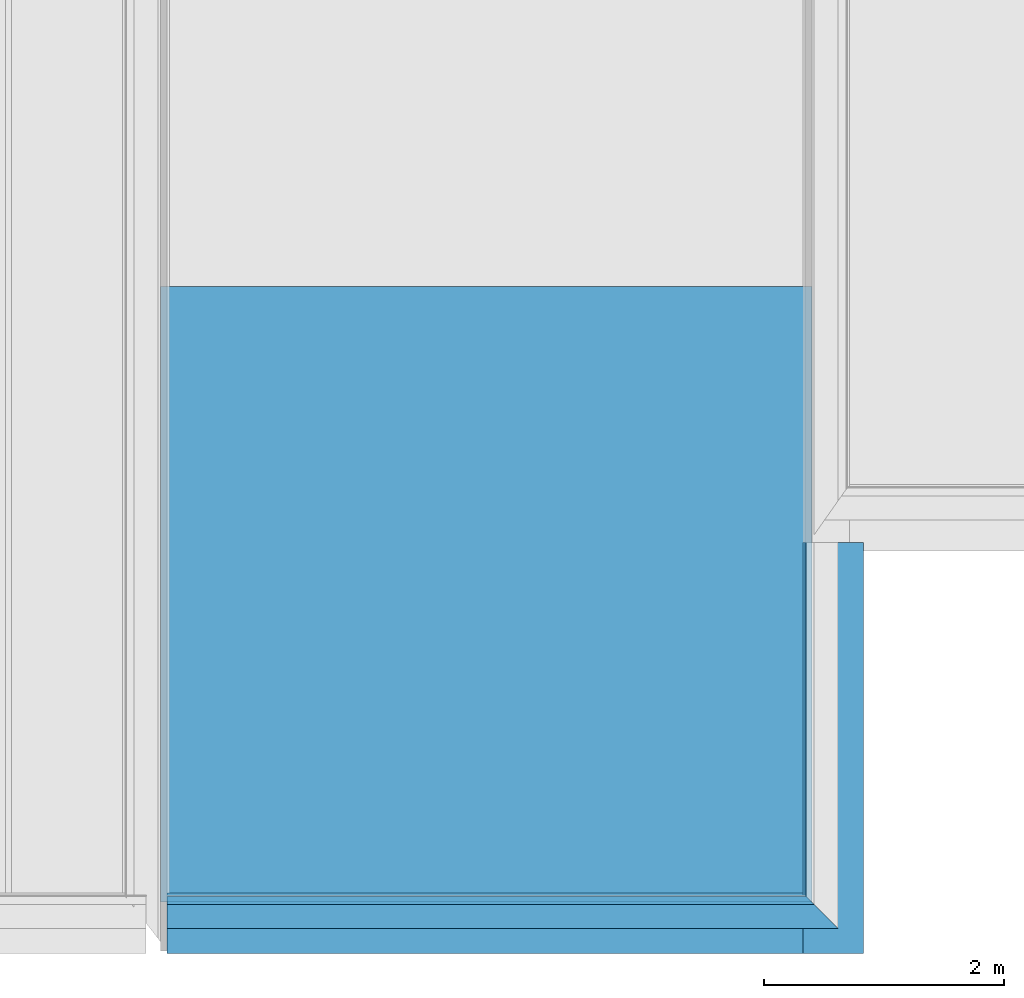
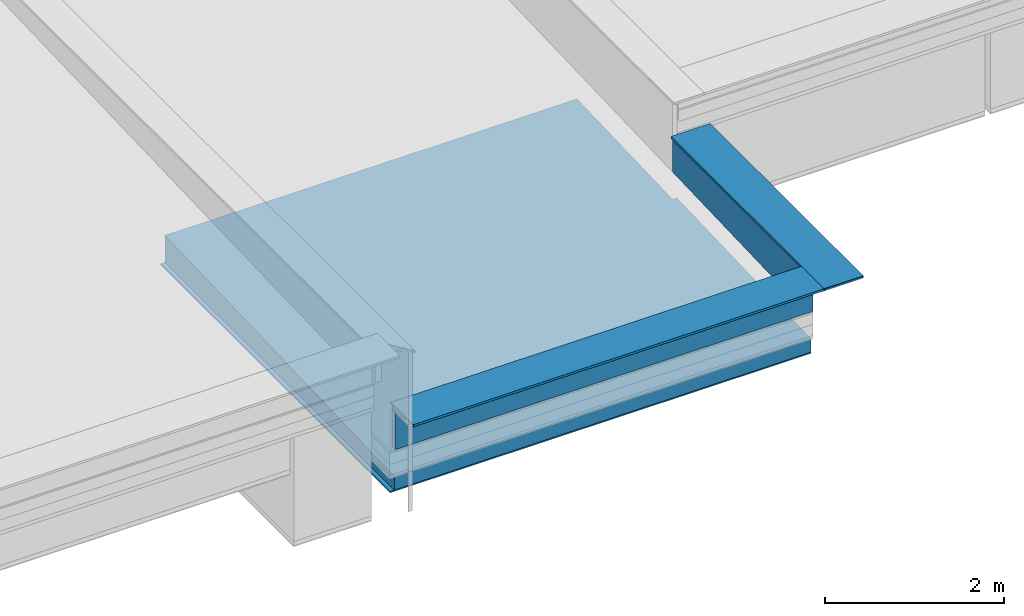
# One storey, part 3 of 13: 7 building element parts, 3 elements without a shape of their own.
"""IFC2X3 building model written with IfcOpenShell, lengths in metres."""

import ifcopenshell
import ifcopenshell.guid

model = None  # the IFC model being written
_history = None  # IfcOwnerHistory: only IFC2X3 demands one
_inside = {}  # id of a spatial element -> (the spatial element, [elements in it])
_under = {}  # id of a project, library or spatial element -> (it, [spatial elements below it])
_declared = {}  # id of a project -> (the project, [libraries it declares])
_typed = {}  # id of a type object -> (the type object, [elements of that type])
_made_of = {}  # id of a material, layer set ... -> (it, [elements and type objects made of it])


def new_model(schema):
    """Start an empty IFC model of exactly this schema.

    Asked for "IFC4X3", IfcOpenShell would pick the latest addendum, in which some entities
    have other attributes; the version numbers below select the first issue.
    IFC2X3 requires an IfcOwnerHistory on every rooted entity: one is made here for all.
    """
    global model, _history
    if schema == "IFC4X3":
        model = ifcopenshell.file(schema_version=(4, 3, 0, 0))
    else:
        model = ifcopenshell.file(schema=schema)
    _inside.clear()
    _under.clear()
    _declared.clear()
    _typed.clear()
    _made_of.clear()
    _history = None
    if model.schema == "IFC2X3":
        org = make("IfcOrganization", Name="unknown")
        user = make(
            "IfcPersonAndOrganization",
            ThePerson=make("IfcPerson", FamilyName="unknown"),
            TheOrganization=org,
        )
        app = make(
            "IfcApplication",
            ApplicationDeveloper=org,
            Version="unknown",
            ApplicationFullName="unknown",
            ApplicationIdentifier="unknown",
        )
        _history = make(
            "IfcOwnerHistory",
            OwningUser=user,
            OwningApplication=app,
            ChangeAction="ADDED",
            CreationDate=0,
        )
    return model


def make(cls, **values):
    """One entity of the class cls with the attributes given. An attribute that is None is left unset."""
    return model.create_entity(
        cls, **{name: value for name, value in values.items() if value is not None}
    )


def entity(cls, *values):
    """Any entity or typed value of the class cls, its attributes in the order of the schema. None: left unset."""
    e = model.create_entity(cls)
    for i, value in enumerate(values):
        if value is not None:
            e[i] = value
    return e


def rooted(cls, **values):
    """An entity with a GlobalId (a new one), such as an element, a storey or a relation."""
    return make(cls, GlobalId=ifcopenshell.guid.new(), OwnerHistory=_history, **values)


def si_unit(unit_type, name, prefix=None):
    """IfcSIUnit, for example si_unit("LENGTHUNIT", "METRE", prefix="MILLI")."""
    return make("IfcSIUnit", UnitType=unit_type, Prefix=prefix, Name=name)


def converted_unit(unit_type, name, factor, base, dimensions=None, offset=None):
    """IfcConversionBasedUnit, such as the inch: factor (a typed value) times the base unit."""
    return make(
        "IfcConversionBasedUnit"
        if offset is None
        else "IfcConversionBasedUnitWithOffset",
        ConversionOffset=offset,
        Dimensions=None
        if dimensions is None
        else entity("IfcDimensionalExponents", *dimensions),
        UnitType=unit_type,
        Name=name,
        ConversionFactor=make(
            "IfcMeasureWithUnit", ValueComponent=factor, UnitComponent=base
        ),
    )


def derived_unit(unit_type, elements):
    """IfcDerivedUnit: a product of units, each with its exponent."""
    return make(
        "IfcDerivedUnit",
        Elements=[
            make("IfcDerivedUnitElement", Unit=unit, Exponent=power)
            for unit, power in elements
        ],
        UnitType=unit_type,
    )


def money_unit(currency):
    """IfcMonetaryUnit."""
    return make("IfcMonetaryUnit", Currency=currency)


def assignment(units):
    """IfcUnitAssignment: the units of a project."""
    return None if units is None else make("IfcUnitAssignment", Units=units)


def point(xyz):
    """IfcCartesianPoint."""
    return None if xyz is None else make("IfcCartesianPoint", Coordinates=xyz)


def direction(xyz):
    """IfcDirection."""
    return None if xyz is None else make("IfcDirection", DirectionRatios=xyz)


def frame(location, z_axis=None, x_axis=None):
    """IfcAxis2Placement3D, a coordinate frame: its origin and axes. An axis left out is left unset."""
    return make(
        "IfcAxis2Placement3D",
        Location=point(location),
        Axis=direction(z_axis),
        RefDirection=direction(x_axis),
    )


def origin_with_axes():
    """The frame at (0, 0, 0) with the z axis (0, 0, 1) and the x axis (1, 0, 0) written out."""
    return frame((0.0, 0.0, 0.0), z_axis=(0.0, 0.0, 1.0), x_axis=(1.0, 0.0, 0.0))


def place(relative_to, where):
    """IfcLocalPlacement: puts the frame where relative to a parent placement (None: the world)."""
    return make(
        "IfcLocalPlacement", PlacementRelTo=relative_to, RelativePlacement=where
    )


def context(
    kind, dimensions, precision=None, world=None, true_north=None, identifier=None
):
    """IfcGeometricRepresentationContext, for example the 3D "Model" context."""
    return make(
        "IfcGeometricRepresentationContext",
        ContextIdentifier=identifier,
        ContextType=kind,
        CoordinateSpaceDimension=dimensions,
        Precision=precision,
        WorldCoordinateSystem=world,
        TrueNorth=true_north,
    )


def subcontext(parent, identifier, kind, view, scale=None):
    """IfcGeometricRepresentationSubContext, for example "Body" below "Model"."""
    return make(
        "IfcGeometricRepresentationSubContext",
        ContextIdentifier=identifier,
        ContextType=kind,
        ParentContext=parent,
        TargetScale=scale,
        TargetView=view,
    )


def project(units=None, contexts=None):
    """IfcProject with its units and contexts."""
    return rooted(
        "IfcProject",
        Name="project",
        RepresentationContexts=contexts,
        UnitsInContext=assignment(units),
    )


def spatial(cls, under=None, at=None, **own):
    """A site, building, storey or space (cls), placed at a placement, below another one or the project."""
    s = rooted(cls, ObjectPlacement=at, **own)
    if under is not None:
        _under.setdefault(under.id(), (under, []))[1].append(s)
    return s


def polyline(points):
    """IfcPolyline through the points."""
    return make("IfcPolyline", Points=[point(p) for p in points])


def outline(outer, holes=None, kind="AREA"):
    """IfcArbitraryClosedProfileDef: a profile drawn as a closed curve; with holes, ...WithVoids."""
    if holes is None:
        return make("IfcArbitraryClosedProfileDef", ProfileType=kind, OuterCurve=outer)
    return make(
        "IfcArbitraryProfileDefWithVoids",
        ProfileType=kind,
        OuterCurve=outer,
        InnerCurves=holes,
    )


def extrude(swept, where, along, depth):
    """IfcExtrudedAreaSolid: the profile swept, set in the frame where, extruded along a direction by depth."""
    return make(
        "IfcExtrudedAreaSolid",
        SweptArea=swept,
        Position=where,
        ExtrudedDirection=direction(along),
        Depth=depth,
    )


def boolean(op, a, b):
    """IfcBooleanResult of two solids."""
    return make("IfcBooleanResult", Operator=op, FirstOperand=a, SecondOperand=b)


def faces_of(points, faces, orient=None, outer=None):
    """IfcFace entities. A face is a list of loops; a loop is a list of indices into points, from 0.

    orient and outer hold one flag for each loop. By default every Orientation is true, the
    first loop of a face is its IfcFaceOuterBound and the others are IfcFaceBound.
    """
    made = []
    for i, loops in enumerate(faces):
        bounds = []
        for j, loop in enumerate(loops):
            is_outer = j == 0 if outer is None else outer[i][j]
            bounds.append(
                make(
                    "IfcFaceOuterBound" if is_outer else "IfcFaceBound",
                    Bound=make("IfcPolyLoop", Polygon=[points[k] for k in loop]),
                    Orientation=True if orient is None else orient[i][j],
                )
            )
        made.append(make("IfcFace", Bounds=bounds))
    return made


def faceted_brep(points, faces, orient=None, outer=None, voids=None):
    """IfcFacetedBrep: a solid bounded by flat faces; with voids (closed shells), ...WithVoids."""
    shared = [point(p) for p in points]
    hull = make("IfcClosedShell", CfsFaces=faces_of(shared, faces, orient, outer))
    if voids is None:
        return make("IfcFacetedBrep", Outer=hull)
    return make(
        "IfcFacetedBrepWithVoids",
        Outer=hull,
        Voids=[
            make(cls, CfsFaces=faces_of(shared, fs, o, b)) for cls, fs, o, b in voids
        ],
    )


def shape(context_of_items, identifier, shape_type, items):
    """IfcShapeRepresentation: the items that make up one representation, for example the "Body"."""
    return make(
        "IfcShapeRepresentation",
        ContextOfItems=context_of_items,
        RepresentationIdentifier=identifier,
        RepresentationType=shape_type,
        Items=items,
    )


def material(Name=None, Category=None):
    """IfcMaterial."""
    return make("IfcMaterial", Name=Name, Category=Category)


def made_of(thing, what):
    """Note that an element or type object is made of a material, layer set ...; save() writes the relation."""
    if what is not None:
        _made_of.setdefault(what.id(), (what, []))[1].append(thing)
    return thing


def type_object(cls, material=None, **own):
    """A type object (cls), such as IfcWallType, which elements share."""
    return made_of(rooted(cls, **own), material)


def element(
    cls,
    number,
    at=None,
    inside=None,
    cuts=None,
    type_object=None,
    material=None,
    context=None,
    identifier="Body",
    shape_type=None,
    held_by="IfcProductDefinitionShape",
    body=None,
    shapes=None,
    **own,
):
    """One element of the class cls, such as IfcWall. Its Tag is "e" and its number.

    at: its placement. inside: the storey or other place that contains it. cuts: it is an
    opening in that element (IfcRelVoidsElement). A single representation is given by context,
    identifier, shape_type and body (its items); several are given by shapes. held_by: the class
    of the entity that holds the representations. save() writes the other relations.
    """
    e = rooted(cls, Tag="e%d" % number, ObjectPlacement=at, **own)
    if body is not None:
        shapes = [shape(context, identifier, shape_type, body)]
    if shapes is not None:
        e.Representation = make(held_by, Representations=shapes)
    if inside is not None:
        _inside.setdefault(inside.id(), (inside, []))[1].append(e)
    if cuts is not None:
        rooted(
            "IfcRelVoidsElement", RelatingBuildingElement=cuts, RelatedOpeningElement=e
        )
    if type_object is not None:
        _typed.setdefault(type_object.id(), (type_object, []))[1].append(e)
    return made_of(e, material)


def aggregate(whole, parts):
    """IfcRelAggregates: a whole, such as a stair, and the parts it consists of."""
    return rooted("IfcRelAggregates", RelatingObject=whole, RelatedObjects=parts)


def save(model, path):
    """Write the relations noted so far, then the file.

    IfcRelAggregates (storeys below a building ...), IfcRelContainedInSpatialStructure (elements
    in a storey), IfcRelDefinesByType, IfcRelAssociatesMaterial and IfcRelDeclares: one each for
    every whole, place, type object, material and project.
    """
    for whole, parts in _under.values():
        aggregate(whole, parts)
    for where, things in _inside.values():
        rooted(
            "IfcRelContainedInSpatialStructure",
            RelatedElements=things,
            RelatingStructure=where,
        )
    for kind, things in _typed.values():
        rooted("IfcRelDefinesByType", RelatedObjects=things, RelatingType=kind)
    for what, things in _made_of.values():
        rooted("IfcRelAssociatesMaterial", RelatedObjects=things, RelatingMaterial=what)
    for by, libraries in _declared.values():
        rooted("IfcRelDeclares", RelatingContext=by, RelatedDefinitions=libraries)
    model.write(path)


model = new_model("IFC2X3")

# Units and contexts
model_context = context("Model", 3, precision=1e-05, world=origin_with_axes(), true_north=direction((0.0, 1.0)))
body_context = subcontext(model_context, "Body", "Model", "MODEL_VIEW")
ifc_project = project(units=[si_unit("LENGTHUNIT", "METRE"), si_unit("AREAUNIT", "SQUARE_METRE"), si_unit("VOLUMEUNIT", "CUBIC_METRE"), converted_unit("PLANEANGLEUNIT", "DEGREE", entity("IfcPlaneAngleMeasure", 0.0174532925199), si_unit("PLANEANGLEUNIT", "RADIAN"), dimensions=[0, 0, 0, 0, 0, 0, 0]), money_unit("CHF"), converted_unit("TIMEUNIT", "Year", entity("IfcTimeMeasure", 31556926.0), si_unit("TIMEUNIT", "SECOND"), dimensions=[0, 0, 1, 0, 0, 0, 0]), si_unit("MASSUNIT", "GRAM", prefix="KILO"), si_unit("THERMODYNAMICTEMPERATUREUNIT", "DEGREE_CELSIUS"), si_unit("LUMINOUSINTENSITYUNIT", "LUMEN"), si_unit("ENERGYUNIT", "JOULE", prefix="MEGA"), derived_unit("THERMALCONDUCTANCEUNIT", [(si_unit("POWERUNIT", "WATT"), 1), (si_unit("LENGTHUNIT", "METRE"), -1), (si_unit("THERMODYNAMICTEMPERATUREUNIT", "KELVIN"), -1)]), derived_unit("SPECIFICHEATCAPACITYUNIT", [(si_unit("ENERGYUNIT", "JOULE"), 1), (si_unit("MASSUNIT", "GRAM", prefix="KILO"), -1), (si_unit("THERMODYNAMICTEMPERATUREUNIT", "KELVIN"), -1)]), derived_unit("MASSDENSITYUNIT", [(si_unit("MASSUNIT", "GRAM", prefix="KILO"), 1), (si_unit("VOLUMEUNIT", "CUBIC_METRE"), -1)])], contexts=[model_context])

# Site, building, storey
site_placement = place(None, origin_with_axes())
site = spatial("IfcSite", under=ifc_project, at=site_placement, Name="Site", CompositionType="ELEMENT")
building_placement = place(site_placement, origin_with_axes())
building = spatial("IfcBuilding", under=site, at=building_placement, Name="Bâtiment", CompositionType="ELEMENT")
storey_placement = place(building_placement, frame((0.0, 0.0, 3.0), z_axis=(0.0, 0.0, 1.0), x_axis=(1.0, 0.0, 0.0)))
storey = spatial("IfcBuildingStorey", under=building, at=storey_placement, Name="Toitures", CompositionType="ELEMENT", Elevation=3.0)

# Slab, building element parts
slab_type = type_object("IfcSlabType", Name="Plafond plaque de platre 1018", PredefinedType="FLOOR")
slab_placement = place(storey_placement, frame((18.8094697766, 8.30012566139, 0.818), z_axis=(0.0, 0.0, 1.0), x_axis=(1.0, 0.0, 0.0)))
slab = element("IfcSlab", 1, at=slab_placement, inside=storey, type_object=slab_type, Name="DALLE-008", PredefinedType="FLOOR")
ifc_material_1 = material(Name="Plaque fibre-gypse")
building_element_part_1_placement = place(slab_placement, origin_with_axes())
building_element_part_1 = element("IfcBuildingElementPart", 2, at=building_element_part_1_placement, material=ifc_material_1, Name="Plaque fibre-gypse", context=body_context, shape_type="CSG", body=[
    boolean("DIFFERENCE", extrude(outline(polyline([(0.0, 0.0), (0.0, -5.11996015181), (5.42, -5.11996015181), (5.42, 0.0), (0.0, 0.0)])), frame((0.0, 0.0, -1.018), z_axis=(0.0, 0.0, 1.0), x_axis=(1.0, 0.0, 0.0)), (0.0, 0.0, 1.0), 0.018), faceted_brep([(5.42, -2.13, -0.708545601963), (5.42, -2.13, -1.0), (5.42, 0.0, -1.0), (5.42, 0.0, 0.0), (5.42, -5.11996015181, 0.0), (5.41999999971, -5.1199601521, -0.813194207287), (5.36500000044, -2.13, -0.708545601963), (5.365, -2.13, -1.0), (5.365, 0.0, -1.0), (0.0550000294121, 0.0, -0.633995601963), (0.0550000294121, 0.0, -1.0), (0.0, 0.0, -1.0), (0.0, 0.0, 0.0), (5.365, 0.0, -0.633995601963), (0.0, -5.11996015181, 0.0), (0.0550000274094, -5.11996015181, -0.813194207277), (0.0, -5.11996015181, -1.0), (0.0550000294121, -5.11996015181, -1.0)], [[[0, 1, 2, 3, 4, 5]], [[1, 0, 6, 7]], [[7, 8, 2, 1]], [[9, 10, 11, 12, 3, 2, 8, 13]], [[4, 3, 12, 14]], [[15, 5, 4, 14, 16, 17]], [[0, 5, 15, 9, 13, 6]], [[13, 8, 7, 6]], [[10, 9, 15, 17]], [[10, 17, 16, 11]], [[14, 12, 11, 16]]])),
])
ifc_material_2 = material(Name="Vide faux plafond")
building_element_part_2_placement = place(slab_placement, origin_with_axes())
building_element_part_2 = element("IfcBuildingElementPart", 3, at=building_element_part_2_placement, material=ifc_material_2, Name="Vide faux plafond", context=body_context, shape_type="CSG", body=[
    boolean("DIFFERENCE", extrude(outline(polyline([(0.0, 0.0), (0.0, -5.11996015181), (5.42, -5.11996015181), (5.42, 0.0), (0.0, 0.0)])), frame((0.0, 0.0, -1.0), z_axis=(0.0, 0.0, 1.0), x_axis=(1.0, 0.0, 0.0)), (0.0, 0.0, 1.0), 1.0), faceted_brep([(5.42, -2.13, -0.708545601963), (5.42, -2.13, -1.0), (5.42, 0.0, -1.0), (5.42, 0.0, 0.0), (5.42, -5.11996015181, 0.0), (5.41999999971, -5.1199601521, -0.813194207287), (5.36500000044, -2.13, -0.708545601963), (5.365, -2.13, -1.0), (5.365, 0.0, -1.0), (0.0550000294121, 0.0, -0.633995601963), (0.0550000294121, 0.0, -1.0), (0.0, 0.0, -1.0), (0.0, 0.0, 0.0), (5.365, 0.0, -0.633995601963), (0.0, -5.11996015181, 0.0), (0.0550000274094, -5.11996015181, -0.813194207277), (0.0, -5.11996015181, -1.0), (0.0550000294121, -5.11996015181, -1.0)], [[[0, 1, 2, 3, 4, 5]], [[1, 0, 6, 7]], [[7, 8, 2, 1]], [[9, 10, 11, 12, 3, 2, 8, 13]], [[4, 3, 12, 14]], [[15, 5, 4, 14, 16, 17]], [[0, 5, 15, 9, 13, 6]], [[13, 8, 7, 6]], [[10, 9, 15, 17]], [[10, 17, 16, 11]], [[14, 12, 11, 16]]])),
])
aggregate(slab, [building_element_part_1, building_element_part_2])

# Beam, building element parts
beam_type = type_object("IfcBeamType", Name="couvertine mur iso 505 x 590", PredefinedType="BEAM")
beam_1_placement = place(storey_placement, frame((24.3494697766, 6.17012566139, 0.97), z_axis=(0.0, 0.0, 1.0), x_axis=(-1.0, 0.0, 0.0)))
beam_1 = element("IfcBeam", 4, at=beam_1_placement, inside=storey, type_object=beam_type, Name="POUTRE-001", ObjectType="BEAM")
ifc_material_3 = material(Name="Etanchéité")
building_element_part_3_placement = place(beam_1_placement, origin_with_axes())
building_element_part_3 = element("IfcBuildingElementPart", 5, at=building_element_part_3_placement, material=ifc_material_3, Name="Etanchéité", context=body_context, shape_type="CSG", body=[
    boolean("DIFFERENCE", boolean("DIFFERENCE", boolean("DIFFERENCE", boolean("DIFFERENCE", boolean("DIFFERENCE", boolean("DIFFERENCE", boolean("DIFFERENCE", extrude(outline(polyline([(0.164999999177, -0.0549999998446), (0.164999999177, -0.589639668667), (0.174999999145, -0.589639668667), (0.174999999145, -0.005), (0.164999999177, -0.005), (0.164999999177, -0.0549999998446)])), frame((0.0, 3.41998014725, 0.0), z_axis=(0.0, -1.0, 0.0), x_axis=(1.0, 0.0, 0.0)), (0.0, 0.0, 1.0), 3.41998014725), faceted_brep([(0.164999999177, 2.94496015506, -0.0549999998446), (0.164999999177, 2.94496015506, -0.005), (0.164999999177, 3.41998014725, -0.005), (0.164999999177, 3.41998014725, -0.0549999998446), (0.174999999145, 2.93496015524, -0.005), (0.164999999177, 2.94496015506, -0.589639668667), (0.174999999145, 2.93496015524, -0.589639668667), (0.174999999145, 3.41998014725, -0.005), (0.174999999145, 3.41998014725, -0.589639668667), (0.164999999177, 3.41998014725, -0.589639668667)], [[[0, 1, 2, 3]], [[4, 1, 0, 5, 6]], [[1, 4, 7, 2]], [[8, 9, 3, 2, 7]], [[5, 0, 3, 9]], [[6, 5, 9, 8]], [[4, 6, 8, 7]]])), faceted_brep([(0.174999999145, 0.0, -0.490319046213), (0.164999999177, 0.0, -0.490319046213), (0.164999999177, 0.0, -0.589639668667), (0.174999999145, 0.0, -0.589639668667), (0.164999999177, 2.83773207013, -0.589639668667), (0.174999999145, 2.83773207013, -0.589639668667)], [[[0, 1, 2, 3]], [[4, 1, 0, 5]], [[1, 4, 2]], [[4, 5, 3, 2]], [[5, 0, 3]]])), faceted_brep([(-0.31, 3.41998014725, -0.03000000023), (-0.31, 3.41996014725, -0.03000000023), (-0.31, 3.41996014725, -1.56462309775e-09), (-0.31, 3.41998014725, -1.56462309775e-09), (-0.3049999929, 3.41998014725, -0.03000000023), (-0.3049999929, 3.41496014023, -0.03000000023), (0.194999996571, 2.91496015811, -0.03000000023), (0.194999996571, 2.91496015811, -1.56462309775e-09), (-0.3049999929, 3.41496014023, -0.0049999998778), (-0.1, 3.20996015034, -0.005), (0.165, 2.94496015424, -0.005), (0.175000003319, 2.93496015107, -0.0049999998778), (0.189999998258, 2.91996015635, -0.0049999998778), (0.189999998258, 2.91996015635, -0.03000000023), (0.194999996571, 3.41998014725, -1.56462309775e-09), (0.194999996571, 3.41998014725, -0.03000000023), (0.189999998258, 3.41998014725, -0.03000000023), (0.189999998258, 3.41998014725, -0.0049999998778), (0.175000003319, 3.41998014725, -0.0049999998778), (0.164999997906, 3.41998014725, -0.0049999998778), (-0.100000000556, 3.41998014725, -0.0049999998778), (-0.3049999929, 3.41998014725, -0.0049999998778)], [[[0, 1, 2, 3]], [[4, 5, 1, 0]], [[6, 7, 2, 1, 5, 8, 9, 10, 11, 12, 13]], [[3, 2, 7, 14]], [[0, 3, 14, 15, 16, 17, 18, 19, 20, 21, 4]], [[21, 8, 5, 4]], [[14, 7, 6, 15]], [[20, 9, 8, 21]], [[19, 10, 9, 20]], [[18, 11, 10, 19]], [[17, 12, 11, 18]], [[16, 13, 12, 17]], [[15, 6, 13, 16]]])), faceted_brep([(-0.29, 0.0, -1.56462309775e-09), (-0.29, 0.05, -1.56462309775e-09), (-0.31, 0.05, -1.56462309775e-09), (-0.31, 0.0, -1.56462309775e-09), (-0.29, 0.0, -0.0049999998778), (-0.29, 0.05, -0.0049999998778), (-0.31, 0.05, -0.03000000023), (-0.3049999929, 0.05, -0.0049999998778), (-0.3049999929, 0.05, -0.03000000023), (-0.31, 0.0, -0.03000000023), (-0.3049999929, 0.0, -0.03000000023), (-0.3049999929, 0.0, -0.0049999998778)], [[[0, 1, 2, 3]], [[1, 0, 4, 5]], [[6, 2, 1, 5, 7, 8]], [[2, 6, 9, 3]], [[4, 0, 3, 9, 10, 11]], [[5, 4, 11, 7]], [[8, 7, 11, 10]], [[6, 8, 10, 9]]])), faceted_brep([(0.0999999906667, 3.41998014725, -0.589639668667), (0.0999999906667, 3.00996016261, -0.589639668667), (0.0999999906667, 3.00996016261, -0.0549999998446), (0.0999999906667, 3.41998014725, -0.0549999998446), (0.164999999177, 3.41998014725, -0.589639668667), (0.164999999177, 2.94496015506, -0.589639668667), (0.16499999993, 2.94496015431, -0.0549999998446), (0.164999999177, 3.41998014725, -0.0549999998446)], [[[0, 1, 2, 3]], [[4, 5, 1, 0]], [[5, 6, 2, 1]], [[3, 2, 6, 7]], [[7, 4, 0, 3]], [[7, 6, 5, 4]]])), faceted_brep([(0.164999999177, 0.0, -0.589639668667), (0.164999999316, 0.0, -0.490319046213), (0.1, 0.0, -0.490319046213), (0.0999999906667, 0.0, -0.589639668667), (0.164999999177, 2.83773207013, -0.589639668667), (0.1, 2.83773207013, -0.589639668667)], [[[0, 1, 2, 3]], [[0, 4, 1]], [[4, 5, 2, 1]], [[3, 2, 5]], [[3, 5, 4, 0]]])), faceted_brep([(-0.1, 3.41998014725, -0.055), (-0.1, 3.20996015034, -0.055), (-0.1, 3.20996015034, -0.005), (-0.1, 3.41998014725, -0.005), (0.0999999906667, 3.41998014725, -0.0549999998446), (0.0999999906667, 3.00996016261, -0.0549999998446), (0.165, 2.94496015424, -0.005), (0.16499999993, 2.94496015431, -0.055), (0.165, 3.41998014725, -0.005), (0.165, 3.41998014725, -0.055)], [[[0, 1, 2, 3]], [[4, 5, 1, 0]], [[6, 2, 1, 5, 7]], [[3, 2, 6, 8]], [[4, 0, 3, 8, 9]], [[9, 7, 5, 4]], [[8, 6, 7, 9]]])),
])
ifc_material_4 = material(Name="Aluminium")
building_element_part_4_placement = place(beam_1_placement, origin_with_axes())
building_element_part_4 = element("IfcBuildingElementPart", 6, at=building_element_part_4_placement, material=ifc_material_4, Name="Aluminium", context=body_context, shape_type="CSG", body=[
    boolean("DIFFERENCE", boolean("DIFFERENCE", boolean("DIFFERENCE", boolean("DIFFERENCE", boolean("DIFFERENCE", boolean("DIFFERENCE", boolean("DIFFERENCE", extrude(outline(polyline([(0.194999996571, -1.56462309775e-09), (-0.31, -1.56462309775e-09), (-0.31, -0.03000000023), (-0.3049999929, -0.03000000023), (-0.3049999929, -0.0049999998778), (-0.100000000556, -0.0049999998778), (0.164999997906, -0.0049999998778), (0.175000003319, -0.0049999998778), (0.189999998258, -0.0049999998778), (0.189999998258, -0.03000000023), (0.194999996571, -0.03000000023), (0.194999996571, -1.56462309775e-09)])), frame((0.0, 3.41998014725, 0.0), z_axis=(0.0, -1.0, 0.0), x_axis=(1.0, 0.0, 0.0)), (0.0, 0.0, 1.0), 3.41998014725), faceted_brep([(0.164999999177, 2.94496015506, -0.0549999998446), (0.164999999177, 2.94496015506, -0.005), (0.164999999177, 3.41998014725, -0.005), (0.164999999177, 3.41998014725, -0.0549999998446), (0.174999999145, 2.93496015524, -0.005), (0.164999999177, 2.94496015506, -0.589639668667), (0.174999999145, 2.93496015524, -0.589639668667), (0.174999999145, 3.41998014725, -0.005), (0.174999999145, 3.41998014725, -0.589639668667), (0.164999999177, 3.41998014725, -0.589639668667)], [[[0, 1, 2, 3]], [[4, 1, 0, 5, 6]], [[1, 4, 7, 2]], [[8, 9, 3, 2, 7]], [[5, 0, 3, 9]], [[6, 5, 9, 8]], [[4, 6, 8, 7]]])), faceted_brep([(0.174999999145, 0.0, -0.490319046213), (0.164999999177, 0.0, -0.490319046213), (0.164999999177, 0.0, -0.589639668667), (0.174999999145, 0.0, -0.589639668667), (0.164999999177, 2.83773207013, -0.589639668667), (0.174999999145, 2.83773207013, -0.589639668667)], [[[0, 1, 2, 3]], [[4, 1, 0, 5]], [[1, 4, 2]], [[4, 5, 3, 2]], [[5, 0, 3]]])), faceted_brep([(-0.31, 3.41998014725, -0.03000000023), (-0.31, 3.41996014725, -0.03000000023), (-0.31, 3.41996014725, -1.56462309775e-09), (-0.31, 3.41998014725, -1.56462309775e-09), (-0.3049999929, 3.41998014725, -0.03000000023), (-0.3049999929, 3.41496014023, -0.03000000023), (0.194999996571, 2.91496015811, -0.03000000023), (0.194999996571, 2.91496015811, -1.56462309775e-09), (-0.3049999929, 3.41496014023, -0.0049999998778), (-0.1, 3.20996015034, -0.005), (0.165, 2.94496015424, -0.005), (0.175000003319, 2.93496015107, -0.0049999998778), (0.189999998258, 2.91996015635, -0.0049999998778), (0.189999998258, 2.91996015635, -0.03000000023), (0.194999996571, 3.41998014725, -1.56462309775e-09), (0.194999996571, 3.41998014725, -0.03000000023), (0.189999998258, 3.41998014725, -0.03000000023), (0.189999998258, 3.41998014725, -0.0049999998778), (0.175000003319, 3.41998014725, -0.0049999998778), (0.164999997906, 3.41998014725, -0.0049999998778), (-0.100000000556, 3.41998014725, -0.0049999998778), (-0.3049999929, 3.41998014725, -0.0049999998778)], [[[0, 1, 2, 3]], [[4, 5, 1, 0]], [[6, 7, 2, 1, 5, 8, 9, 10, 11, 12, 13]], [[3, 2, 7, 14]], [[0, 3, 14, 15, 16, 17, 18, 19, 20, 21, 4]], [[21, 8, 5, 4]], [[14, 7, 6, 15]], [[20, 9, 8, 21]], [[19, 10, 9, 20]], [[18, 11, 10, 19]], [[17, 12, 11, 18]], [[16, 13, 12, 17]], [[15, 6, 13, 16]]])), faceted_brep([(-0.29, 0.0, -1.56462309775e-09), (-0.29, 0.05, -1.56462309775e-09), (-0.31, 0.05, -1.56462309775e-09), (-0.31, 0.0, -1.56462309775e-09), (-0.29, 0.0, -0.0049999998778), (-0.29, 0.05, -0.0049999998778), (-0.31, 0.05, -0.03000000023), (-0.3049999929, 0.05, -0.0049999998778), (-0.3049999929, 0.05, -0.03000000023), (-0.31, 0.0, -0.03000000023), (-0.3049999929, 0.0, -0.03000000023), (-0.3049999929, 0.0, -0.0049999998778)], [[[0, 1, 2, 3]], [[1, 0, 4, 5]], [[6, 2, 1, 5, 7, 8]], [[2, 6, 9, 3]], [[4, 0, 3, 9, 10, 11]], [[5, 4, 11, 7]], [[8, 7, 11, 10]], [[6, 8, 10, 9]]])), faceted_brep([(0.0999999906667, 3.41998014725, -0.589639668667), (0.0999999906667, 3.00996016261, -0.589639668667), (0.0999999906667, 3.00996016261, -0.0549999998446), (0.0999999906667, 3.41998014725, -0.0549999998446), (0.164999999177, 3.41998014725, -0.589639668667), (0.164999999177, 2.94496015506, -0.589639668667), (0.16499999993, 2.94496015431, -0.0549999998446), (0.164999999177, 3.41998014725, -0.0549999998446)], [[[0, 1, 2, 3]], [[4, 5, 1, 0]], [[5, 6, 2, 1]], [[3, 2, 6, 7]], [[7, 4, 0, 3]], [[7, 6, 5, 4]]])), faceted_brep([(0.164999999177, 0.0, -0.589639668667), (0.164999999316, 0.0, -0.490319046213), (0.1, 0.0, -0.490319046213), (0.0999999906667, 0.0, -0.589639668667), (0.164999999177, 2.83773207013, -0.589639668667), (0.1, 2.83773207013, -0.589639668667)], [[[0, 1, 2, 3]], [[0, 4, 1]], [[4, 5, 2, 1]], [[3, 2, 5]], [[3, 5, 4, 0]]])), faceted_brep([(-0.1, 3.41998014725, -0.055), (-0.1, 3.20996015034, -0.055), (-0.1, 3.20996015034, -0.005), (-0.1, 3.41998014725, -0.005), (0.0999999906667, 3.41998014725, -0.0549999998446), (0.0999999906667, 3.00996016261, -0.0549999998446), (0.165, 2.94496015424, -0.005), (0.16499999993, 2.94496015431, -0.055), (0.165, 3.41998014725, -0.005), (0.165, 3.41998014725, -0.055)], [[[0, 1, 2, 3]], [[4, 5, 1, 0]], [[6, 2, 1, 5, 7]], [[3, 2, 6, 8]], [[4, 0, 3, 8, 9]], [[9, 7, 5, 4]], [[8, 6, 7, 9]]])),
])
aggregate(beam_1, [building_element_part_3, building_element_part_4])

beam_2_placement = place(storey_placement, frame((24.3494697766, 3.06016550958, 0.97), z_axis=(0.0, 0.0, 1.0), x_axis=(-1.47045133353e-08, 1.0, 0.0)))
beam_2 = element("IfcBeam", 7, at=beam_2_placement, inside=storey, type_object=beam_type, Name="POUTRE-002", ObjectType="BEAM")
building_element_part_5_placement = place(beam_2_placement, origin_with_axes())
building_element_part_5 = element("IfcBuildingElementPart", 8, at=building_element_part_5_placement, material=ifc_material_4, Name="Aluminium", context=body_context, shape_type="CSG", body=[
    boolean("DIFFERENCE", boolean("DIFFERENCE", boolean("DIFFERENCE", boolean("DIFFERENCE", extrude(outline(polyline([(0.194999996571, -1.56462309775e-09), (-0.31, -1.56462309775e-09), (-0.31, -0.03000000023), (-0.3049999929, -0.03000000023), (-0.3049999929, -0.0049999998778), (-0.100000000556, -0.0049999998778), (0.164999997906, -0.0049999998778), (0.175000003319, -0.0049999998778), (0.189999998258, -0.0049999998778), (0.189999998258, -0.03000000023), (0.194999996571, -0.03000000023), (0.194999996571, -1.56462309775e-09)])), frame((0.0, 5.48499997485, 0.0), z_axis=(0.0, -1.0, 0.0), x_axis=(1.0, 0.0, 0.0)), (0.0, 0.0, 1.0), 5.79501997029), faceted_brep([(0.174999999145, 0.174999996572, -0.005), (0.164999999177, 0.16499999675, -0.005), (0.164999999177, -0.310019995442, -0.005), (0.174999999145, -0.310019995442, -0.005), (0.164999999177, 0.16499999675, -0.0549999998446), (0.174999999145, 0.174999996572, -0.589639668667), (0.164999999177, 0.16499999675, -0.589639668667), (0.164999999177, -0.310019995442, -0.0549999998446), (0.164999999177, -0.310019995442, -0.589639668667), (0.174999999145, -0.310019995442, -0.589639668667)], [[[0, 1, 2, 3]], [[4, 1, 0, 5, 6]], [[1, 4, 7, 2]], [[3, 2, 7, 8, 9]], [[5, 0, 3, 9]], [[6, 5, 9, 8]], [[4, 6, 8, 7]]])), faceted_brep([(0.194999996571, -0.310019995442, -1.56462309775e-09), (0.194999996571, 0.194999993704, -1.56462309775e-09), (-0.31, -0.309999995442, -1.56462309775e-09), (-0.31, -0.310019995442, -1.56462309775e-09), (0.194999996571, -0.310019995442, -0.03000000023), (0.194999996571, 0.194999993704, -0.03000000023), (-0.3049999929, -0.304999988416, -0.03000000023), (-0.31, -0.309999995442, -0.03000000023), (0.189999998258, 0.189999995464, -0.03000000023), (0.189999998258, 0.189999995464, -0.0049999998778), (0.175000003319, 0.175000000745, -0.0049999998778), (0.165, 0.164999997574, -0.005), (-0.1, -0.0999999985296, -0.005), (-0.3049999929, -0.304999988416, -0.0049999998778), (-0.31, -0.310019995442, -0.03000000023), (0.189999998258, -0.310019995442, -0.03000000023), (-0.3049999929, -0.310019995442, -0.03000000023), (-0.3049999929, -0.310019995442, -0.0049999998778), (-0.100000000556, -0.310019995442, -0.0049999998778), (0.164999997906, -0.310019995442, -0.0049999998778), (0.175000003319, -0.310019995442, -0.0049999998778), (0.189999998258, -0.310019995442, -0.0049999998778)], [[[0, 1, 2, 3]], [[4, 5, 1, 0]], [[6, 7, 2, 1, 5, 8, 9, 10, 11, 12, 13]], [[3, 2, 7, 14]], [[15, 4, 0, 3, 14, 16, 17, 18, 19, 20, 21]], [[15, 8, 5, 4]], [[14, 7, 6, 16]], [[21, 9, 8, 15]], [[20, 10, 9, 21]], [[19, 11, 10, 20]], [[18, 12, 11, 19]], [[17, 13, 12, 18]], [[16, 6, 13, 17]]])), faceted_brep([(0.164999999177, -0.310019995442, -0.0549999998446), (0.16499999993, 0.164999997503, -0.0549999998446), (0.0999999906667, 0.0999999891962, -0.0549999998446), (0.0999999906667, -0.310019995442, -0.0549999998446), (0.164999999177, -0.310019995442, -0.589639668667), (0.164999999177, 0.16499999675, -0.589639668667), (0.0999999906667, 0.0999999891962, -0.589639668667), (0.0999999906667, -0.310019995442, -0.589639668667)], [[[0, 1, 2, 3]], [[4, 5, 1, 0]], [[5, 6, 2, 1]], [[3, 2, 6, 7]], [[0, 3, 7, 4]], [[7, 6, 5, 4]]])), faceted_brep([(0.165, -0.310019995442, -0.005), (0.165, 0.164999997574, -0.005), (-0.1, -0.0999999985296, -0.005), (-0.1, -0.310019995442, -0.005), (0.165, -0.310019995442, -0.055), (0.16499999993, 0.164999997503, -0.055), (0.0999999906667, 0.0999999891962, -0.0549999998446), (-0.1, -0.0999999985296, -0.055), (-0.1, -0.310019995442, -0.055), (0.0999999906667, -0.310019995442, -0.0549999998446)], [[[0, 1, 2, 3]], [[4, 5, 1, 0]], [[6, 7, 2, 1, 5]], [[3, 2, 7, 8]], [[4, 0, 3, 8, 9]], [[9, 6, 5, 4]], [[8, 7, 6, 9]]])),
])
ifc_material_5 = material(Name="Isolation - Polyuréthane (extérieur)")
building_element_part_6_placement = place(beam_2_placement, origin_with_axes())
building_element_part_6 = element("IfcBuildingElementPart", 9, at=building_element_part_6_placement, material=ifc_material_5, Name="Isolation - Polyuréthane (extérieur)", context=body_context, shape_type="CSG", body=[
    boolean("DIFFERENCE", boolean("DIFFERENCE", boolean("DIFFERENCE", boolean("DIFFERENCE", extrude(outline(polyline([(0.0999999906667, -0.589639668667), (0.164999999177, -0.589639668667), (0.164999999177, -0.0549999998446), (0.0999999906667, -0.0549999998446), (0.0999999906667, -0.589639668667)])), frame((0.0, 5.48499997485, 0.0), z_axis=(0.0, -1.0, 0.0), x_axis=(1.0, 0.0, 0.0)), (0.0, 0.0, 1.0), 5.79501997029), faceted_brep([(0.174999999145, 0.174999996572, -0.005), (0.164999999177, 0.16499999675, -0.005), (0.164999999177, -0.310019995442, -0.005), (0.174999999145, -0.310019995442, -0.005), (0.164999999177, 0.16499999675, -0.0549999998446), (0.174999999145, 0.174999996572, -0.589639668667), (0.164999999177, 0.16499999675, -0.589639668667), (0.164999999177, -0.310019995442, -0.0549999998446), (0.164999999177, -0.310019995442, -0.589639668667), (0.174999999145, -0.310019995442, -0.589639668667)], [[[0, 1, 2, 3]], [[4, 1, 0, 5, 6]], [[1, 4, 7, 2]], [[3, 2, 7, 8, 9]], [[5, 0, 3, 9]], [[6, 5, 9, 8]], [[4, 6, 8, 7]]])), faceted_brep([(0.194999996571, -0.310019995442, -1.56462309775e-09), (0.194999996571, 0.194999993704, -1.56462309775e-09), (-0.31, -0.309999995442, -1.56462309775e-09), (-0.31, -0.310019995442, -1.56462309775e-09), (0.194999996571, -0.310019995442, -0.03000000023), (0.194999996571, 0.194999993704, -0.03000000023), (-0.3049999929, -0.304999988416, -0.03000000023), (-0.31, -0.309999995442, -0.03000000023), (0.189999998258, 0.189999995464, -0.03000000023), (0.189999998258, 0.189999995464, -0.0049999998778), (0.175000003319, 0.175000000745, -0.0049999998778), (0.165, 0.164999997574, -0.005), (-0.1, -0.0999999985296, -0.005), (-0.3049999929, -0.304999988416, -0.0049999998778), (-0.31, -0.310019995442, -0.03000000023), (0.189999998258, -0.310019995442, -0.03000000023), (-0.3049999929, -0.310019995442, -0.03000000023), (-0.3049999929, -0.310019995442, -0.0049999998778), (-0.100000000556, -0.310019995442, -0.0049999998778), (0.164999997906, -0.310019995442, -0.0049999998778), (0.175000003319, -0.310019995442, -0.0049999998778), (0.189999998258, -0.310019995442, -0.0049999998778)], [[[0, 1, 2, 3]], [[4, 5, 1, 0]], [[6, 7, 2, 1, 5, 8, 9, 10, 11, 12, 13]], [[3, 2, 7, 14]], [[15, 4, 0, 3, 14, 16, 17, 18, 19, 20, 21]], [[15, 8, 5, 4]], [[14, 7, 6, 16]], [[21, 9, 8, 15]], [[20, 10, 9, 21]], [[19, 11, 10, 20]], [[18, 12, 11, 19]], [[17, 13, 12, 18]], [[16, 6, 13, 17]]])), faceted_brep([(0.164999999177, -0.310019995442, -0.0549999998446), (0.16499999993, 0.164999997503, -0.0549999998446), (0.0999999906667, 0.0999999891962, -0.0549999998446), (0.0999999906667, -0.310019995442, -0.0549999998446), (0.164999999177, -0.310019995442, -0.589639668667), (0.164999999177, 0.16499999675, -0.589639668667), (0.0999999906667, 0.0999999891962, -0.589639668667), (0.0999999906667, -0.310019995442, -0.589639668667)], [[[0, 1, 2, 3]], [[4, 5, 1, 0]], [[5, 6, 2, 1]], [[3, 2, 6, 7]], [[0, 3, 7, 4]], [[7, 6, 5, 4]]])), faceted_brep([(0.165, -0.310019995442, -0.005), (0.165, 0.164999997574, -0.005), (-0.1, -0.0999999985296, -0.005), (-0.1, -0.310019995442, -0.005), (0.165, -0.310019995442, -0.055), (0.16499999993, 0.164999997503, -0.055), (0.0999999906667, 0.0999999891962, -0.0549999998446), (-0.1, -0.0999999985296, -0.055), (-0.1, -0.310019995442, -0.055), (0.0999999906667, -0.310019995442, -0.0549999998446)], [[[0, 1, 2, 3]], [[4, 5, 1, 0]], [[6, 7, 2, 1, 5]], [[3, 2, 7, 8]], [[4, 0, 3, 8, 9]], [[9, 6, 5, 4]], [[8, 7, 6, 9]]])),
])
building_element_part_7_placement = place(beam_2_placement, origin_with_axes())
building_element_part_7 = element("IfcBuildingElementPart", 10, at=building_element_part_7_placement, material=ifc_material_5, Name="Isolation - Polyuréthane (extérieur)", context=body_context, shape_type="CSG", body=[
    boolean("DIFFERENCE", boolean("DIFFERENCE", boolean("DIFFERENCE", boolean("DIFFERENCE", extrude(outline(polyline([(-0.1, -0.005), (-0.1, -0.055), (0.0999999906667, -0.0549999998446), (0.165, -0.055), (0.165, -0.005), (-0.1, -0.005)])), frame((0.0, 5.48499997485, 0.0), z_axis=(0.0, -1.0, 0.0), x_axis=(1.0, 0.0, 0.0)), (0.0, 0.0, 1.0), 5.79501997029), faceted_brep([(0.174999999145, 0.174999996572, -0.005), (0.164999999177, 0.16499999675, -0.005), (0.164999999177, -0.310019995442, -0.005), (0.174999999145, -0.310019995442, -0.005), (0.164999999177, 0.16499999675, -0.0549999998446), (0.174999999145, 0.174999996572, -0.589639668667), (0.164999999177, 0.16499999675, -0.589639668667), (0.164999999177, -0.310019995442, -0.0549999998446), (0.164999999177, -0.310019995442, -0.589639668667), (0.174999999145, -0.310019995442, -0.589639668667)], [[[0, 1, 2, 3]], [[4, 1, 0, 5, 6]], [[1, 4, 7, 2]], [[3, 2, 7, 8, 9]], [[5, 0, 3, 9]], [[6, 5, 9, 8]], [[4, 6, 8, 7]]])), faceted_brep([(0.194999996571, -0.310019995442, -1.56462309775e-09), (0.194999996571, 0.194999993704, -1.56462309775e-09), (-0.31, -0.309999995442, -1.56462309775e-09), (-0.31, -0.310019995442, -1.56462309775e-09), (0.194999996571, -0.310019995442, -0.03000000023), (0.194999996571, 0.194999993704, -0.03000000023), (-0.3049999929, -0.304999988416, -0.03000000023), (-0.31, -0.309999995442, -0.03000000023), (0.189999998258, 0.189999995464, -0.03000000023), (0.189999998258, 0.189999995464, -0.0049999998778), (0.175000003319, 0.175000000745, -0.0049999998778), (0.165, 0.164999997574, -0.005), (-0.1, -0.0999999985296, -0.005), (-0.3049999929, -0.304999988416, -0.0049999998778), (-0.31, -0.310019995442, -0.03000000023), (0.189999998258, -0.310019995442, -0.03000000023), (-0.3049999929, -0.310019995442, -0.03000000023), (-0.3049999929, -0.310019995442, -0.0049999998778), (-0.100000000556, -0.310019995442, -0.0049999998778), (0.164999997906, -0.310019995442, -0.0049999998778), (0.175000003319, -0.310019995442, -0.0049999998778), (0.189999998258, -0.310019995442, -0.0049999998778)], [[[0, 1, 2, 3]], [[4, 5, 1, 0]], [[6, 7, 2, 1, 5, 8, 9, 10, 11, 12, 13]], [[3, 2, 7, 14]], [[15, 4, 0, 3, 14, 16, 17, 18, 19, 20, 21]], [[15, 8, 5, 4]], [[14, 7, 6, 16]], [[21, 9, 8, 15]], [[20, 10, 9, 21]], [[19, 11, 10, 20]], [[18, 12, 11, 19]], [[17, 13, 12, 18]], [[16, 6, 13, 17]]])), faceted_brep([(0.164999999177, -0.310019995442, -0.0549999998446), (0.16499999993, 0.164999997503, -0.0549999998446), (0.0999999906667, 0.0999999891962, -0.0549999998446), (0.0999999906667, -0.310019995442, -0.0549999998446), (0.164999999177, -0.310019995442, -0.589639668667), (0.164999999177, 0.16499999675, -0.589639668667), (0.0999999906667, 0.0999999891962, -0.589639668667), (0.0999999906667, -0.310019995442, -0.589639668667)], [[[0, 1, 2, 3]], [[4, 5, 1, 0]], [[5, 6, 2, 1]], [[3, 2, 6, 7]], [[0, 3, 7, 4]], [[7, 6, 5, 4]]])), faceted_brep([(0.165, -0.310019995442, -0.005), (0.165, 0.164999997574, -0.005), (-0.1, -0.0999999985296, -0.005), (-0.1, -0.310019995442, -0.005), (0.165, -0.310019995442, -0.055), (0.16499999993, 0.164999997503, -0.055), (0.0999999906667, 0.0999999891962, -0.0549999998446), (-0.1, -0.0999999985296, -0.055), (-0.1, -0.310019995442, -0.055), (0.0999999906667, -0.310019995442, -0.0549999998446)], [[[0, 1, 2, 3]], [[4, 5, 1, 0]], [[6, 7, 2, 1, 5]], [[3, 2, 7, 8]], [[4, 0, 3, 8, 9]], [[9, 6, 5, 4]], [[8, 7, 6, 9]]])),
])
aggregate(beam_2, [building_element_part_5, building_element_part_6, building_element_part_7])

save(model, "model.ifc")
